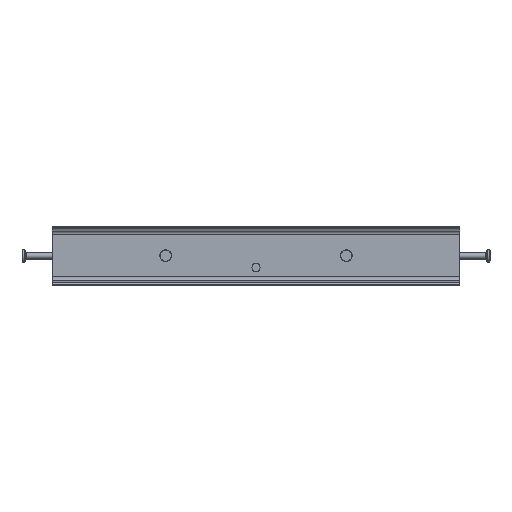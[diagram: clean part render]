
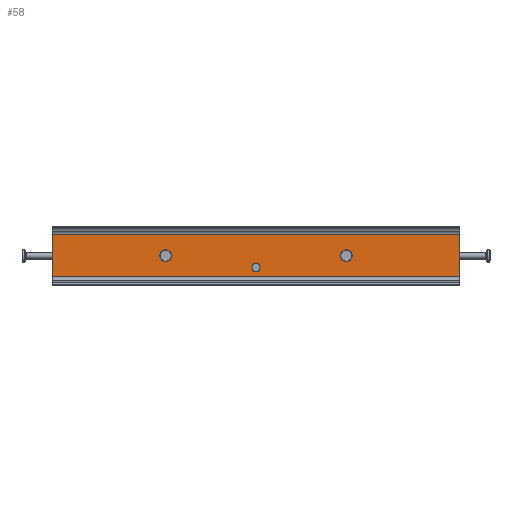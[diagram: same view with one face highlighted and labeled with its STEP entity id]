
A CAD part, top view. The second image highlights one B-rep face of the part: STEP entity #58.
In plain terms, the highlighted planar face has unit normal (0, 0, 1) as drawn and (0, 0, -1) by its records, which use the part's own axes.
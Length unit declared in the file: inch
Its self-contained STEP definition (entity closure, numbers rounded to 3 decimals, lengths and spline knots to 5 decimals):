
#58 = ADVANCED_FACE ( 'NONE', ( #1852, #2296 ), #568, .F. ) ;
#64 = CARTESIAN_POINT ( 'NONE',  ( 17.59375, 1.5, -0.19 ) ) ;
#131 = DIRECTION ( 'NONE',  ( -1., 0., 0. ) ) ;
#171 = VECTOR ( 'NONE', #964, 39.37008 ) ;
#225 = DIRECTION ( 'NONE',  ( 0., 0., 1. ) ) ;
#254 = ORIENTED_EDGE ( 'NONE', *, *, #2266, .F. ) ;
#299 = EDGE_CURVE ( 'NONE', #1773, #2341, #1133, .T. ) ;
#303 = EDGE_CURVE ( 'NONE', #440, #2029, #327, .T. ) ;
#325 = EDGE_LOOP ( 'NONE', ( #1760, #585 ) ) ;
#327 = LINE ( 'NONE', #555, #2463 ) ;
#371 = ORIENTED_EDGE ( 'NONE', *, *, #299, .F. ) ;
#373 = EDGE_CURVE ( 'NONE', #2375, #1962, #1815, .T. ) ;
#440 = VERTEX_POINT ( 'NONE', #1943 ) ;
#487 = CARTESIAN_POINT ( 'NONE',  ( 34.5, 4.30433, -0.19 ) ) ;
#489 = CARTESIAN_POINT ( 'NONE',  ( 34.5, 4.30433, -0.19 ) ) ;
#494 = DIRECTION ( 'NONE',  ( 0., -1., 0. ) ) ;
#555 = CARTESIAN_POINT ( 'NONE',  ( 0., 4.30433, -0.19 ) ) ;
#567 = EDGE_CURVE ( 'NONE', #1962, #2375, #747, .T. ) ;
#568 = PLANE ( 'NONE',  #733 ) ;
#585 = ORIENTED_EDGE ( 'NONE', *, *, #373, .T. ) ;
#733 = AXIS2_PLACEMENT_3D ( 'NONE', #1254, #2019, #1069 ) ;
#735 = AXIS2_PLACEMENT_3D ( 'NONE', #1746, #225, #1386 ) ;
#747 = CIRCLE ( 'NONE', #1412, 0.34375 ) ;
#761 = ORIENTED_EDGE ( 'NONE', *, *, #1873, .T. ) ;
#964 = DIRECTION ( 'NONE',  ( -1., 0., 0. ) ) ;
#1069 = DIRECTION ( 'NONE',  ( 0., -1., 0. ) ) ;
#1095 = VECTOR ( 'NONE', #1512, 39.37008 ) ;
#1133 = LINE ( 'NONE', #2292, #1095 ) ;
#1186 = CARTESIAN_POINT ( 'NONE',  ( 0., 4.30433, -0.19 ) ) ;
#1254 = CARTESIAN_POINT ( 'NONE',  ( 34.5, 4.30433, -0.19 ) ) ;
#1365 = CARTESIAN_POINT ( 'NONE',  ( 34.5, 0.69567, -0.19 ) ) ;
#1386 = DIRECTION ( 'NONE',  ( 0., -1., 0. ) ) ;
#1412 = AXIS2_PLACEMENT_3D ( 'NONE', #1646, #1448, #494 ) ;
#1448 = DIRECTION ( 'NONE',  ( 0., 0., 1. ) ) ;
#1512 = DIRECTION ( 'NONE',  ( 0., 1., 0. ) ) ;
#1646 = CARTESIAN_POINT ( 'NONE',  ( 17.25, 1.5, -0.19 ) ) ;
#1715 = LINE ( 'NONE', #1365, #171 ) ;
#1746 = CARTESIAN_POINT ( 'NONE',  ( 17.25, 1.5, -0.19 ) ) ;
#1760 = ORIENTED_EDGE ( 'NONE', *, *, #567, .T. ) ;
#1773 = VERTEX_POINT ( 'NONE', #2256 ) ;
#1815 = CIRCLE ( 'NONE', #735, 0.34375 ) ;
#1852 = FACE_BOUND ( 'NONE', #325, .T. ) ;
#1873 = EDGE_CURVE ( 'NONE', #1773, #440, #1715, .T. ) ;
#1943 = CARTESIAN_POINT ( 'NONE',  ( 0., 0.69567, -0.19 ) ) ;
#1962 = VERTEX_POINT ( 'NONE', #64 ) ;
#2002 = EDGE_LOOP ( 'NONE', ( #2195, #254, #371, #761 ) ) ;
#2019 = DIRECTION ( 'NONE',  ( 0., 0., 1. ) ) ;
#2029 = VERTEX_POINT ( 'NONE', #1186 ) ;
#2195 = ORIENTED_EDGE ( 'NONE', *, *, #303, .T. ) ;
#2256 = CARTESIAN_POINT ( 'NONE',  ( 34.5, 0.69567, -0.19 ) ) ;
#2266 = EDGE_CURVE ( 'NONE', #2341, #2029, #2429, .T. ) ;
#2292 = CARTESIAN_POINT ( 'NONE',  ( 34.5, 4.30433, -0.19 ) ) ;
#2296 = FACE_OUTER_BOUND ( 'NONE', #2002, .T. ) ;
#2307 = VECTOR ( 'NONE', #131, 39.37008 ) ;
#2341 = VERTEX_POINT ( 'NONE', #487 ) ;
#2369 = CARTESIAN_POINT ( 'NONE',  ( 16.90625, 1.5, -0.19 ) ) ;
#2375 = VERTEX_POINT ( 'NONE', #2369 ) ;
#2429 = LINE ( 'NONE', #489, #2307 ) ;
#2453 = DIRECTION ( 'NONE',  ( 0., 1., 0. ) ) ;
#2463 = VECTOR ( 'NONE', #2453, 39.37008 ) ;
